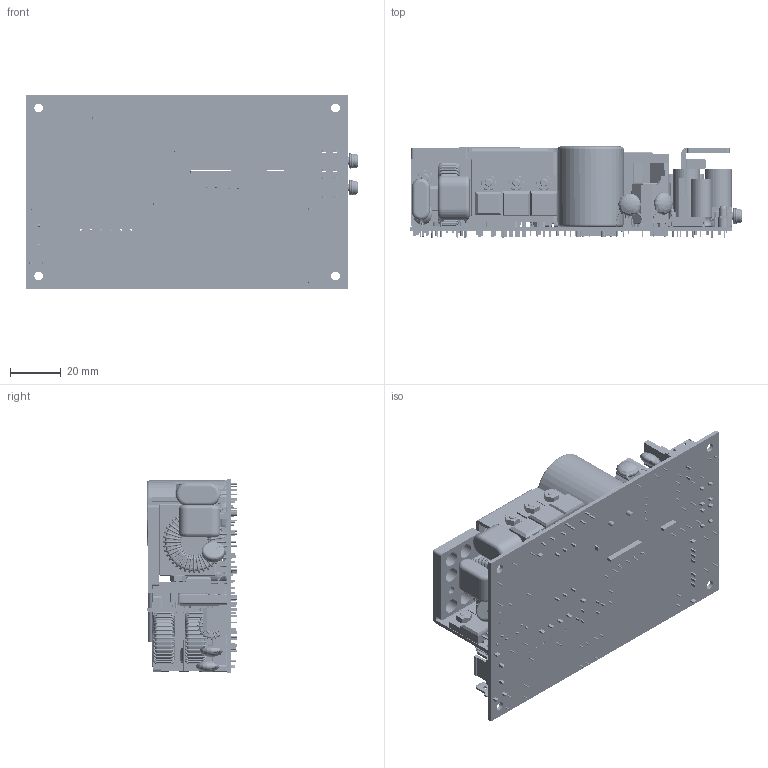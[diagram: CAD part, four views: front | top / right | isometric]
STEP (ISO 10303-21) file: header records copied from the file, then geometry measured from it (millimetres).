
FILE_DESCRIPTION((''),'2;1');
FILE_NAME('PJH-24V300WBBA_PD00_ASM','2025-03-20T20:13:38',('LEO.JY.WU'),(''),'CREO PARAMETRIC BY PTC INC, 2023294','CREO PARAMETRIC BY PTC INC, 2023294','');
FILE_SCHEMA(('AUTOMOTIVE_DESIGN { 1 0 10303 214 1 1 1 1 }'));
Length unit declared in the file: millimetre
Products named in the file (102): PWB-24V300W-1; PWB_LAYOUT_T-1417; PWB_LAOUT_B-1417; PWB-24V300W-1_ASM; 334765700101_A1_29; 334765700101_A2_27; 334765700101_A10; 334765700101_A11; 334765700101_ASM; EE_SCR1; EE_SCR2; 3110110100_NUT_M3_; 3105456700_M3-L7; 3105319100_M3-L8; EE_BD1; ASSY_HS1_ASM; 334765690000_A; PIN_AF2_1; PIN_AF3_1; 334765690000_ASM; EE_Q5_AF0; EE_Q6_AF0; EE_D10; ASSY_HS2_AF0_ASM; 334765670000; PIN_AF4_1; PIN_AF5_1; 334765670000_ASM; EE_Q101_AF0; EE_Q102_AF0; ASSY_HS3_AF0_ASM; 334765680000; EE_Q902; EE_Q903; 3105319300_M3X12; ASSY_HS4_ASM; PWB_LAOUT-ADC-1; ASSY_PWB_ADC102_ASM; PWB_LAOUT_ADC-2; MANIFOLD_SOLID_BREP_244733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
Assembly tree (122 placements, depth 5):
  PJH-24V300WBBA_PD00_ASM
    ASSY_PWB-24V300W-1_ASM
      PWB-24V300W-1_ASM
        PWB-24V300W-1
        PWB_LAYOUT_T-1417
        PWB_LAOUT_B-1417
      ASSY_HS1_ASM
        334765700101_ASM
          334765700101_A1_29
          334765700101_A2_27
          334765700101_A10
          334765700101_A11
        EE_SCR1
        EE_SCR2
        3110110100_NUT_M3_  x3
        3105456700_M3-L7  x2
        3105319100_M3-L8
        EE_BD1
      ASSY_HS2_AF0_ASM
        334765690000_ASM
          334765690000_A
          PIN_AF2_1
          PIN_AF3_1
        EE_Q5_AF0
        EE_Q6_AF0
        EE_D10
        3105456700_M3-L7  x3
        3110110100_NUT_M3_  x3
      ASSY_HS3_AF0_ASM
        334765670000_ASM
          334765670000
          PIN_AF4_1
          PIN_AF5_1
        EE_Q101_AF0
        EE_Q102_AF0
        3105456700_M3-L7  x2
        3110110100_NUT_M3_  x2
      ASSY_HS4_ASM
        334765680000
        EE_Q902
        EE_Q903
        3105319300_M3X12
        3110110100_NUT_M3_
      ASSY_PWB_ADC102_ASM
        PWB_LAOUT-ADC-1
      ASSY_PWB_ADC101_ASM
        PWB_LAOUT_ADC-2
        FL1_FL2_1_ASM  x2
          MANIFOLD_SOLID_BREP_244733
          MANIFOLD_SOLID_BREP_245444
          _FL1_FL2_1
      T1_1_ASM
        T1_CORE_1  x2
        T1_BBN_1
        T1_BASE_1
        L2_COPPER_COILS_1
      T2_1_ASM
        T2_CORE_AF0_1
        T2_CORE_AF1_1
        T2_BN_AF0_1
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Bounding box: 130.85 x 35.8 x 76.2 mm (x, y, z)
Volume: 134943 mm3; surface area: 126963.4 mm2
Topology: 99 solids, 241 shells, 7470 faces, 17929 edges, 10768 vertices
Faces by surface type: plane 3141, cylinder 2398, torus 1282, cone 297, bspline 257, sphere 62, extrusion 17, revolution 16
Entity records: 238027 total; most frequent: CARTESIAN_POINT 49261, DIRECTION 32170, ORIENTED_EDGE 29660, EDGE_CURVE 14838, AXIS2_PLACEMENT_3D 11781, VERTEX_POINT 9160, VECTOR 8592, LINE 8575
